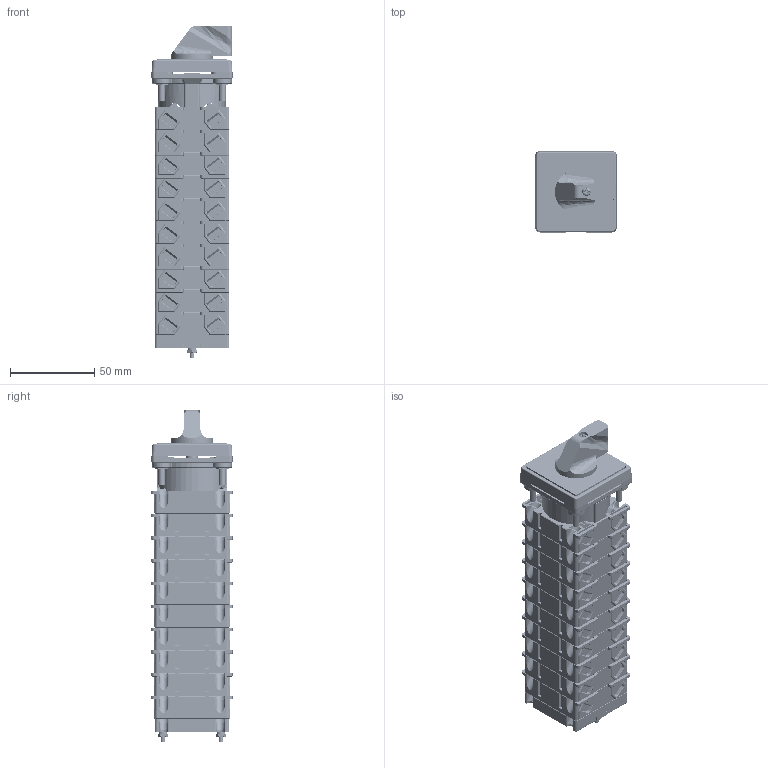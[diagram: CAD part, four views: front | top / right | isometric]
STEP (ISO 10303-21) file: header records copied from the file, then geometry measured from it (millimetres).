
FILE_DESCRIPTION (( 'STEP AP214' ), '1' );
FILE_NAME ('Ïåðåêëþ÷àòåëü 4G10-XXXX-U-R012,R014,S24 10ê.STEP', '2022-11-24T08:08:34', ( '' ), ( '' ), 'SwSTEP 2.0', 'SolidWorks 2018', '' );
FILE_SCHEMA (( 'AUTOMOTIVE_DESIGN' ));
Length unit declared in the file: millimetre
Products named in the file (1): Ïåðåêëþ÷àòåëü 4G10-XXXX-U-R012,R014,S24 10ê
Bounding box: 48 x 48 x 196.6 mm (x, y, z)
Volume: 306117.4 mm3; surface area: 125091 mm2
Topology: 42 solids, 122 shells, 8302 faces, 21241 edges, 13458 vertices
Faces by surface type: plane 4717, cylinder 2659, torus 408, cone 331, bspline 135, sphere 52
Entity records: 353254 total; most frequent: CARTESIAN_POINT 62403, ORIENTED_EDGE 42368, DIRECTION 40669, EDGE_CURVE 21184, VECTOR 14331, LINE 14331, VERTEX_POINT 13446, AXIS2_PLACEMENT_3D 13169
